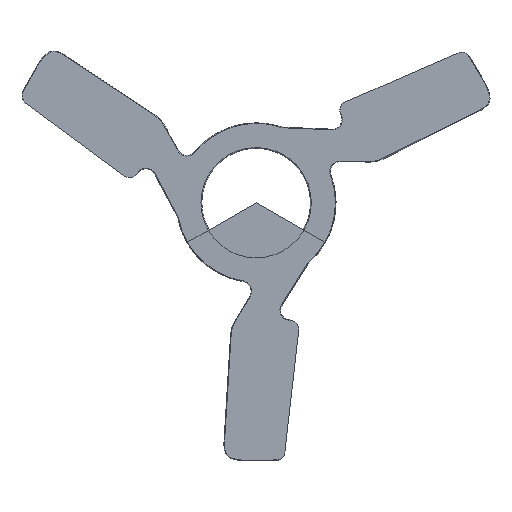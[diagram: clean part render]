
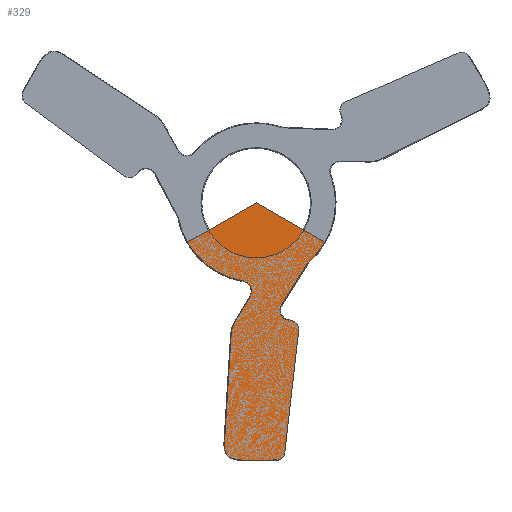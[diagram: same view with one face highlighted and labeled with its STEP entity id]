
A CAD part, front view. The second image highlights one B-rep face of the part: STEP entity #329.
In plain terms, the highlighted planar face has unit normal (0, -1, 0).
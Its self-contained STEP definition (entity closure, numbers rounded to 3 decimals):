
#40 = DIRECTION ( 'NONE',  ( -0.866, 0., -0.5 ) ) ;
#112 = AXIS2_PLACEMENT_3D ( 'NONE', #6438, #3325, #5163 ) ;
#142 = CIRCLE ( 'NONE', #2199, 41.143 ) ;
#170 = PLANE ( 'NONE',  #3772 ) ;
#184 = DIRECTION ( 'NONE',  ( 0., 1., 0. ) ) ;
#211 = EDGE_CURVE ( 'NONE', #1766, #4748, #6064, .T. ) ;
#258 = LINE ( 'NONE', #7556, #1208 ) ;
#329 = ADVANCED_FACE ( 'NONE', ( #4913 ), #170, .F. ) ;
#358 = ORIENTED_EDGE ( 'NONE', *, *, #5192, .F. ) ;
#426 = CARTESIAN_POINT ( 'NONE',  ( -16.514, 0., -122.173 ) ) ;
#522 = EDGE_CURVE ( 'NONE', #3695, #5181, #4248, .T. ) ;
#574 = EDGE_CURVE ( 'NONE', #4836, #1443, #1378, .T. ) ;
#600 = CARTESIAN_POINT ( 'NONE',  ( 0., 0., 0. ) ) ;
#605 = DIRECTION ( 'NONE',  ( 0., 0., 1. ) ) ;
#618 = EDGE_CURVE ( 'NONE', #4635, #4101, #6641, .T. ) ;
#793 = DIRECTION ( 'NONE',  ( -0.113, 0., -0.994 ) ) ;
#925 = ORIENTED_EDGE ( 'NONE', *, *, #5282, .F. ) ;
#1162 = VECTOR ( 'NONE', #3805, 1000. ) ;
#1191 = CARTESIAN_POINT ( 'NONE',  ( 21.914, 0., -65.943 ) ) ;
#1200 = LINE ( 'NONE', #600, #1897 ) ;
#1208 = VECTOR ( 'NONE', #7516, 1000. ) ;
#1226 = CARTESIAN_POINT ( 'NONE',  ( -16.514, 0., -122.173 ) ) ;
#1251 = ORIENTED_EDGE ( 'NONE', *, *, #3527, .F. ) ;
#1323 = VERTEX_POINT ( 'NONE', #3032 ) ;
#1343 = CARTESIAN_POINT ( 'NONE',  ( 16.946, 0., -65.377 ) ) ;
#1362 = ORIENTED_EDGE ( 'NONE', *, *, #3081, .F. ) ;
#1378 = CIRCLE ( 'NONE', #3451, 5. ) ;
#1421 = CIRCLE ( 'NONE', #1548, 5. ) ;
#1443 = VERTEX_POINT ( 'NONE', #4441 ) ;
#1548 = AXIS2_PLACEMENT_3D ( 'NONE', #1343, #6243, #3211 ) ;
#1615 = EDGE_CURVE ( 'NONE', #5069, #3695, #4597, .T. ) ;
#1766 = VERTEX_POINT ( 'NONE', #5424 ) ;
#1856 = CARTESIAN_POINT ( 'NONE',  ( -16.756, 0., -126.107 ) ) ;
#1897 = VECTOR ( 'NONE', #40, 1000. ) ;
#1911 = EDGE_CURVE ( 'NONE', #4635, #7839, #1200, .T. ) ;
#2167 = CIRCLE ( 'NONE', #112, 5. ) ;
#2199 = AXIS2_PLACEMENT_3D ( 'NONE', #4784, #4025, #6541 ) ;
#2211 = CARTESIAN_POINT ( 'NONE',  ( -35.63, 0., -20.571 ) ) ;
#2256 = VERTEX_POINT ( 'NONE', #1191 ) ;
#2281 = CARTESIAN_POINT ( 'NONE',  ( 17.564, 0., -55.366 ) ) ;
#2319 = ORIENTED_EDGE ( 'NONE', *, *, #7066, .F. ) ;
#2334 = CARTESIAN_POINT ( 'NONE',  ( 35.63, 0., -20.571 ) ) ;
#2360 = ORIENTED_EDGE ( 'NONE', *, *, #618, .F. ) ;
#2362 = DIRECTION ( 'NONE',  ( 0., 1., 0. ) ) ;
#2423 = VECTOR ( 'NONE', #4640, 1000. ) ;
#2540 = CARTESIAN_POINT ( 'NONE',  ( 0., 0., 0. ) ) ;
#2555 = CARTESIAN_POINT ( 'NONE',  ( 26.992, 0., -31.05 ) ) ;
#2621 = EDGE_CURVE ( 'NONE', #2256, #6784, #3930, .T. ) ;
#2796 = CARTESIAN_POINT ( 'NONE',  ( -13.174, 0., -67.83 ) ) ;
#3032 = CARTESIAN_POINT ( 'NONE',  ( 26.992, 0., -31.05 ) ) ;
#3081 = EDGE_CURVE ( 'NONE', #1323, #4836, #7663, .T. ) ;
#3211 = DIRECTION ( 'NONE',  ( 0., 0., 1. ) ) ;
#3325 = DIRECTION ( 'NONE',  ( 0., 1., 0. ) ) ;
#3366 = CARTESIAN_POINT ( 'NONE',  ( 0., 0., 0. ) ) ;
#3445 = CARTESIAN_POINT ( 'NONE',  ( -6.773, 0., -40.581 ) ) ;
#3451 = AXIS2_PLACEMENT_3D ( 'NONE', #2281, #5890, #7202 ) ;
#3504 = CARTESIAN_POINT ( 'NONE',  ( -3.307, 0., -48.082 ) ) ;
#3527 = EDGE_CURVE ( 'NONE', #5181, #7839, #142, .T. ) ;
#3623 = DIRECTION ( 'NONE',  ( 0., 0., 1. ) ) ;
#3652 = CARTESIAN_POINT ( 'NONE',  ( 0., 0., 0. ) ) ;
#3665 = VECTOR ( 'NONE', #6006, 1000. ) ;
#3695 = VERTEX_POINT ( 'NONE', #3504 ) ;
#3710 = CARTESIAN_POINT ( 'NONE',  ( -16.692, 0., -133.143 ) ) ;
#3750 = DIRECTION ( 'NONE',  ( 0., 1., 0. ) ) ;
#3772 = AXIS2_PLACEMENT_3D ( 'NONE', #2540, #3750, #605 ) ;
#3805 = DIRECTION ( 'NONE',  ( -0.534, 0., -0.846 ) ) ;
#3830 = CARTESIAN_POINT ( 'NONE',  ( 10.092, 0., -132.785 ) ) ;
#3831 = VERTEX_POINT ( 'NONE', #7407 ) ;
#3930 = LINE ( 'NONE', #6366, #4206 ) ;
#4025 = DIRECTION ( 'NONE',  ( 0., 1., 0. ) ) ;
#4058 = DIRECTION ( 'NONE',  ( 0.866, 0., -0.5 ) ) ;
#4099 = CIRCLE ( 'NONE', #5235, 15. ) ;
#4101 = VERTEX_POINT ( 'NONE', #2334 ) ;
#4206 = VECTOR ( 'NONE', #793, 1000. ) ;
#4222 = EDGE_CURVE ( 'NONE', #3831, #2256, #1421, .T. ) ;
#4248 = CIRCLE ( 'NONE', #6289, 5. ) ;
#4289 = CARTESIAN_POINT ( 'NONE',  ( -11.07, 0., -61.042 ) ) ;
#4387 = VECTOR ( 'NONE', #4058, 1000. ) ;
#4441 = CARTESIAN_POINT ( 'NONE',  ( 16.866, 0., -60.317 ) ) ;
#4453 = VERTEX_POINT ( 'NONE', #2796 ) ;
#4597 = LINE ( 'NONE', #7025, #2423 ) ;
#4635 = VERTEX_POINT ( 'NONE', #3652 ) ;
#4640 = DIRECTION ( 'NONE',  ( 0.514, 0., 0.858 ) ) ;
#4655 = ORIENTED_EDGE ( 'NONE', *, *, #211, .F. ) ;
#4699 = LINE ( 'NONE', #426, #3665 ) ;
#4748 = VERTEX_POINT ( 'NONE', #1226 ) ;
#4784 = CARTESIAN_POINT ( 'NONE',  ( 0., 0., 0. ) ) ;
#4836 = VERTEX_POINT ( 'NONE', #6647 ) ;
#4913 = FACE_OUTER_BOUND ( 'NONE', #5831, .T. ) ;
#4951 = CARTESIAN_POINT ( 'NONE',  ( -16.514, 0., -122.173 ) ) ;
#5069 = VERTEX_POINT ( 'NONE', #4289 ) ;
#5120 = AXIS2_PLACEMENT_3D ( 'NONE', #3366, #184, #5724 ) ;
#5145 = ORIENTED_EDGE ( 'NONE', *, *, #2621, .F. ) ;
#5163 = DIRECTION ( 'NONE',  ( 0., 0., 1. ) ) ;
#5181 = VERTEX_POINT ( 'NONE', #3445 ) ;
#5192 = EDGE_CURVE ( 'NONE', #4101, #1323, #6132, .T. ) ;
#5220 = ORIENTED_EDGE ( 'NONE', *, *, #1615, .F. ) ;
#5235 = AXIS2_PLACEMENT_3D ( 'NONE', #6085, #2362, #7841 ) ;
#5282 = EDGE_CURVE ( 'NONE', #6784, #1766, #2167, .T. ) ;
#5424 = CARTESIAN_POINT ( 'NONE',  ( 10.092, 0., -132.785 ) ) ;
#5455 = DIRECTION ( 'NONE',  ( 0., -1., 0. ) ) ;
#5724 = DIRECTION ( 'NONE',  ( 0., 0., 1. ) ) ;
#5801 = EDGE_CURVE ( 'NONE', #4453, #5069, #4099, .T. ) ;
#5831 = EDGE_LOOP ( 'NONE', ( #2360, #7203, #1251, #7322, #5220, #7519, #2319, #4655, #925, #5145, #6868, #7444, #6322, #1362, #358 ) ) ;
#5890 = DIRECTION ( 'NONE',  ( 0., -1., 0. ) ) ;
#6006 = DIRECTION ( 'NONE',  ( 0.061, 0., 0.998 ) ) ;
#6058 = CARTESIAN_POINT ( 'NONE',  ( -7.596, 0., -45.513 ) ) ;
#6064 = B_SPLINE_CURVE_WITH_KNOTS ( 'NONE', 3,
 ( #3830, #7343, #3710, #1856, #4951 ),
 .UNSPECIFIED., .F., .F.,
 ( 4, 1, 4 ),
 ( 0.057, 0.529, 1. ),
 .UNSPECIFIED. ) ;
#6085 = CARTESIAN_POINT ( 'NONE',  ( 1.798, 0., -68.75 ) ) ;
#6132 = CIRCLE ( 'NONE', #5120, 41.143 ) ;
#6243 = DIRECTION ( 'NONE',  ( 0., 1., 0. ) ) ;
#6289 = AXIS2_PLACEMENT_3D ( 'NONE', #6058, #5455, #3623 ) ;
#6322 = ORIENTED_EDGE ( 'NONE', *, *, #574, .F. ) ;
#6366 = CARTESIAN_POINT ( 'NONE',  ( 21.914, 0., -65.943 ) ) ;
#6438 = CARTESIAN_POINT ( 'NONE',  ( 9.843, 0., -127.791 ) ) ;
#6541 = DIRECTION ( 'NONE',  ( 0., 0., 1. ) ) ;
#6641 = LINE ( 'NONE', #7724, #4387 ) ;
#6647 = CARTESIAN_POINT ( 'NONE',  ( 13.335, 0., -52.698 ) ) ;
#6784 = VERTEX_POINT ( 'NONE', #7072 ) ;
#6868 = ORIENTED_EDGE ( 'NONE', *, *, #4222, .F. ) ;
#7025 = CARTESIAN_POINT ( 'NONE',  ( -11.07, 0., -61.042 ) ) ;
#7066 = EDGE_CURVE ( 'NONE', #4748, #4453, #4699, .T. ) ;
#7072 = CARTESIAN_POINT ( 'NONE',  ( 14.811, 0., -128.356 ) ) ;
#7154 = EDGE_CURVE ( 'NONE', #1443, #3831, #258, .T. ) ;
#7202 = DIRECTION ( 'NONE',  ( 0., 0., 1. ) ) ;
#7203 = ORIENTED_EDGE ( 'NONE', *, *, #1911, .T. ) ;
#7322 = ORIENTED_EDGE ( 'NONE', *, *, #522, .F. ) ;
#7343 = CARTESIAN_POINT ( 'NONE',  ( -2.556, 0., -133.413 ) ) ;
#7407 = CARTESIAN_POINT ( 'NONE',  ( 17.644, 0., -60.426 ) ) ;
#7444 = ORIENTED_EDGE ( 'NONE', *, *, #7154, .F. ) ;
#7516 = DIRECTION ( 'NONE',  ( 0.99, 0., -0.14 ) ) ;
#7519 = ORIENTED_EDGE ( 'NONE', *, *, #5801, .F. ) ;
#7556 = CARTESIAN_POINT ( 'NONE',  ( 16.866, 0., -60.317 ) ) ;
#7663 = LINE ( 'NONE', #2555, #1162 ) ;
#7724 = CARTESIAN_POINT ( 'NONE',  ( 0., 0., 0. ) ) ;
#7839 = VERTEX_POINT ( 'NONE', #2211 ) ;
#7841 = DIRECTION ( 'NONE',  ( 0., 0., 1. ) ) ;
